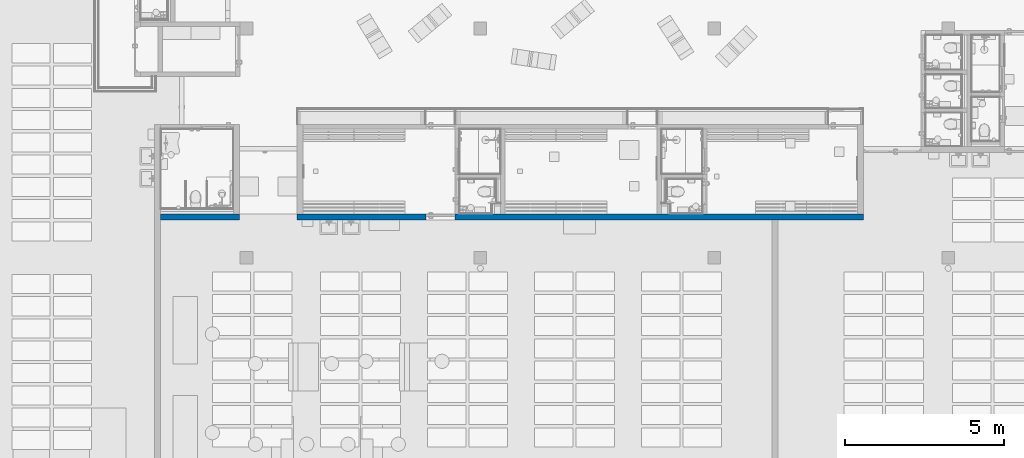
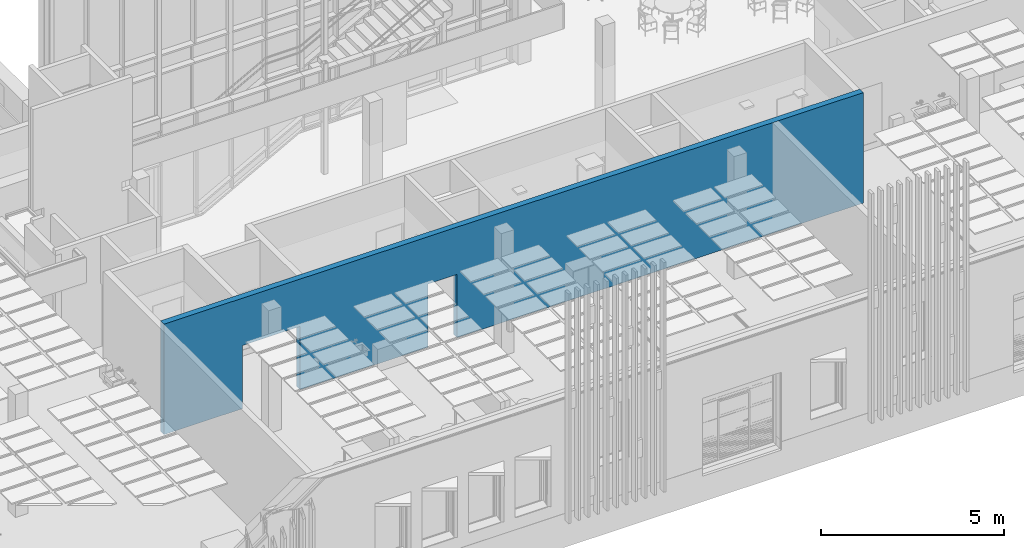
# One storey, part 126 of 301: 1 wall, 2 openings.
"""IFC2X3 building model written with IfcOpenShell, lengths in millimetres."""

from ifc_helpers import new_model, entity, si_unit, converted_unit, derived_unit, money_unit, direction, frame, origin_with_axes, place, context, subcontext, project, spatial, faceted_brep, material, type_object, element, save


model = new_model("IFC2X3")

# Units and contexts
model_context = context("Model", 3, precision=0.01, world=origin_with_axes(), true_north=direction((0.0, 1.0)))
body_context = subcontext(model_context, "Body", "Model", "MODEL_VIEW")
ifc_project = project(units=[si_unit("LENGTHUNIT", "METRE", prefix="MILLI"), si_unit("AREAUNIT", "SQUARE_METRE"), si_unit("VOLUMEUNIT", "CUBIC_METRE"), converted_unit("PLANEANGLEUNIT", "DEGREE", entity("IfcPlaneAngleMeasure", 0.0174532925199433), si_unit("PLANEANGLEUNIT", "RADIAN"), dimensions=[0, 0, 0, 0, 0, 0, 0]), money_unit("EUR"), converted_unit("TIMEUNIT", "Year", entity("IfcTimeMeasure", 31557600.0), si_unit("TIMEUNIT", "SECOND"), dimensions=[0, 0, 1, 0, 0, 0, 0]), si_unit("MASSUNIT", "GRAM", prefix="KILO"), si_unit("THERMODYNAMICTEMPERATUREUNIT", "DEGREE_CELSIUS"), si_unit("LUMINOUSINTENSITYUNIT", "LUMEN"), si_unit("ENERGYUNIT", "JOULE", prefix="MEGA"), derived_unit("THERMALCONDUCTANCEUNIT", [(si_unit("POWERUNIT", "WATT"), 1), (si_unit("LENGTHUNIT", "METRE"), -1), (si_unit("THERMODYNAMICTEMPERATUREUNIT", "KELVIN"), -1)]), derived_unit("SPECIFICHEATCAPACITYUNIT", [(si_unit("ENERGYUNIT", "JOULE"), 1), (si_unit("MASSUNIT", "GRAM", prefix="KILO"), -1), (si_unit("THERMODYNAMICTEMPERATUREUNIT", "KELVIN"), -1)]), derived_unit("MASSDENSITYUNIT", [(si_unit("MASSUNIT", "GRAM", prefix="KILO"), 1), (si_unit("VOLUMEUNIT", "CUBIC_METRE"), -1)])], contexts=[model_context])

# Site, building, storey
site_placement = place(None, frame((0.0, 0.0, 8650.0), z_axis=(0.0, 0.0, 1.0), x_axis=(1.0, 0.0, 0.0)))
site = spatial("IfcSite", under=ifc_project, at=site_placement, Name="43301:001:0844", CompositionType="ELEMENT")
building_placement = place(site_placement, origin_with_axes())
building = spatial("IfcBuilding", under=site, at=building_placement, Name="Kuressaare Ametikooli tuulikute mehaanikute õppekorpus", CompositionType="ELEMENT")
storey_placement = place(building_placement, origin_with_axes())
storey = spatial("IfcBuildingStorey", under=building, at=storey_placement, Name="1.korrus", CompositionType="ELEMENT", Elevation=0.0)

# Wall, openings
ifc_material = material(Name="Betoonplokk")
wall_type = type_object("IfcWallType", Name="SS-1.1 190", PredefinedType="NOTDEFINED")
wall_placement = place(storey_placement, frame((123065.2609256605, 17954.83706625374, 0.0), z_axis=(0.0, 0.0, 1.0), x_axis=(-0.9999999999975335, -2.221017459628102e-06, 0.0)))
wall = element("IfcWall", 1, at=wall_placement, inside=storey, type_object=wall_type, material=ifc_material, Name="Sisesein", context=body_context, shape_type="Brep", body=[
    faceted_brep([(19419.74272771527, 0.0, 2110.0), (19419.74272771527, 0.0, 0.0), (21897.30864092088, 0.0, 0.0), (21897.30864092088, 0.0, 3690.0), (-190.0000000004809, 0.0, 3690.0), (-190.0000000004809, 0.0, 0.0), (12649.74869913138, 0.0, 0.0), (12649.74869913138, 0.0, 2110.0), (13559.74869913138, 0.0, 2110.0), (13559.74869913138, 0.0, 0.0), (17609.74862541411, 0.0, 0.0), (17609.74862541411, 0.0, 2110.0), (19419.74272771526, 190.0000000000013, 2110.0), (19419.74272771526, 190.0000000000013, 0.0), (21897.30906291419, 189.9999999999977, 0.0), (21897.30906291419, 190.0000000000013, 3690.0), (-189.9995780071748, 190.0000000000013, 3690.0), (-189.9995780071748, 190.0000000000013, 0.0), (12649.74869913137, 190.0000000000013, 0.0), (12649.74869913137, 190.0000000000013, 2110.0), (13559.74869913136, 190.0000000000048, 2110.0), (13559.74869913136, 190.0000000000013, 0.0), (17609.74862541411, 189.9999999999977, 0.0), (17609.74862541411, 189.9999999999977, 2110.0)], [[[0, 1, 2, 3, 4, 5, 6, 7, 8, 9, 10, 11]], [[1, 0, 12, 13]], [[1, 13, 14, 2]], [[3, 2, 14, 15]], [[4, 3, 15, 16]], [[16, 17, 5, 4]], [[6, 5, 17, 18]], [[6, 18, 19, 7]], [[7, 19, 20, 8]], [[8, 20, 21, 9]], [[22, 10, 9, 21]], [[11, 10, 22, 23]], [[0, 11, 23, 12]], [[23, 22, 21, 20, 19, 18, 17, 16, 15, 14, 13, 12]]]),
])
opening_1_placement = place(wall_placement, frame((13104.74869913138, 0.0, 0.0), z_axis=(0.0, 0.0, 1.0), x_axis=(1.0, 0.0, 0.0)))
element("IfcOpeningElement", 2, at=opening_1_placement, cuts=wall, Name="TU9,EI30,dB", context=body_context, shape_type="Brep", body=[
    faceted_brep([(454.9999999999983, 191.0490562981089, 2110.0), (454.9999999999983, 191.0490562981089, 0.0), (-454.9999999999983, 191.0490562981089, 0.0), (-454.9999999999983, 191.0490562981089, 2110.0), (454.9999999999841, -1.049056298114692, 2110.0), (454.9999999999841, -1.049056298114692, 0.0), (-455.0000000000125, -1.04905629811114, 0.0), (-455.0000000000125, -1.04905629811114, 2110.0)], [[[0, 1, 2, 3]], [[4, 5, 1, 0]], [[5, 6, 2, 1]], [[6, 7, 3, 2]], [[7, 4, 0, 3]], [[6, 5, 4, 7]]]),
])
opening_2_placement = place(wall_placement, frame((18514.7456765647, 0.0, 0.0), z_axis=(0.0, 0.0, 1.0), x_axis=(1.0, 0.0, 0.0)))
element("IfcOpeningElement", 3, at=opening_2_placement, cuts=wall, Name="ava", context=body_context, shape_type="Brep", body=[
    faceted_brep([(-904.9970511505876, 189.9999999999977, 0.0), (-904.9970511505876, 189.9999999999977, 2110.0), (-904.9970511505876, 191.0490562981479, 2110.0), (-904.9970511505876, 191.0490562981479, 0.0), (-904.9970511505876, -1.049056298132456, 0.0), (-904.9970511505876, -1.049056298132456, 2110.0), (904.9970511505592, 190.0000000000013, 2110.0), (904.9970511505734, 191.0490562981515, 2110.0), (904.9970511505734, 191.0490562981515, 0.0), (904.9970511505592, 190.0000000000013, 0.0), (904.9970511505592, -1.049056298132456, 0.0), (904.9970511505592, -1.049056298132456, 2110.0)], [[[0, 1, 2, 3]], [[1, 0, 4, 5]], [[1, 6, 7, 2]], [[8, 3, 2, 7]], [[9, 0, 3, 8]], [[0, 9, 10, 4]], [[5, 4, 10, 11]], [[6, 1, 5, 11]], [[6, 9, 8, 7]], [[9, 6, 11, 10]]]),
])

save(model, "model.ifc")
